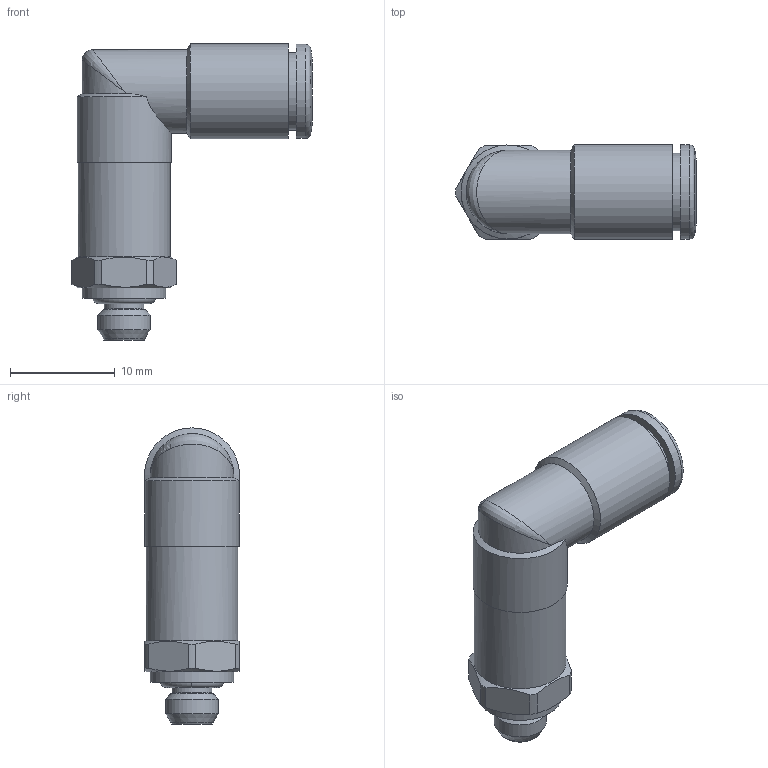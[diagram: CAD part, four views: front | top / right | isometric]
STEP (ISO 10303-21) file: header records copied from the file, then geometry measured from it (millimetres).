
FILE_DESCRIPTION(('Bauteilbeschreibung','HiCAD-Model','HiCAD-STEP-TRANSLATION','Bauteilbeschreibung'),'2;1');
FILE_NAME('B:/ABGLEICH/ZEICHNUNGEN/STEP FÜR INTERNET/STEP/IPSO 026/202600_IPSO_026_4_M5.STP','2012-02-14T15:12:35+00:00',('Konstrukteur'),('Konstrukteur Firma GmbH'),' HiCAD neXt 2008, Step 3.1.1401.2J ','HiCAD neXt 2008','confidential');
FILE_SCHEMA(('AUTOMOTIVE_DESIGN { 1 2 10303 214 0 1 1 1 }'));
Length unit declared in the file: millimetre
Products named in the file (7): A02600_IPSO_026_4_M5; OR 4X1_2; DR4_1_NEU; R202200_N2; A14611_N2; A146110N2; DIN 13_M5
Assembly tree (6 placements, depth 3):
  A02600_IPSO_026_4_M5
    OR 4X1_2
    DR4_1_NEU
    R202200_N2
    A14611_N2
    A146110N2
      DIN 13_M5
Bounding box: 23 x 9.1 x 28.35 mm (x, y, z)
Volume: 1768.9 mm3; surface area: 2524.2 mm2
Topology: 5 solids, 5 shells, 81 faces, 188 edges, 117 vertices
Faces by surface type: cylinder 31, cone 22, plane 20, torus 7, bspline 1
Full cylindrical faces by diameter (mm): 2.6 x1, 3.8 x1, 4.019 x2, 4.1 x2, 5 x1, 6 x1, 6.4 x1, 6.8 x2, 7.3 x1, 7.4 x1, 7.6 x1, 7.85 x1, 7.9 x1, 8 x2, 8.8 x1, 9 x2, 9.1 x1
Entity records: 3694 total; most frequent: CARTESIAN_POINT 1435, DIRECTION 364, ORIENTED_EDGE 246, AXIS2_PLACEMENT_3D 175, EDGE_LOOP 138, EDGE_CURVE 123, COLOUR_RGB 108, PRESENTATION_STYLE_ASSIGNMENT 108
